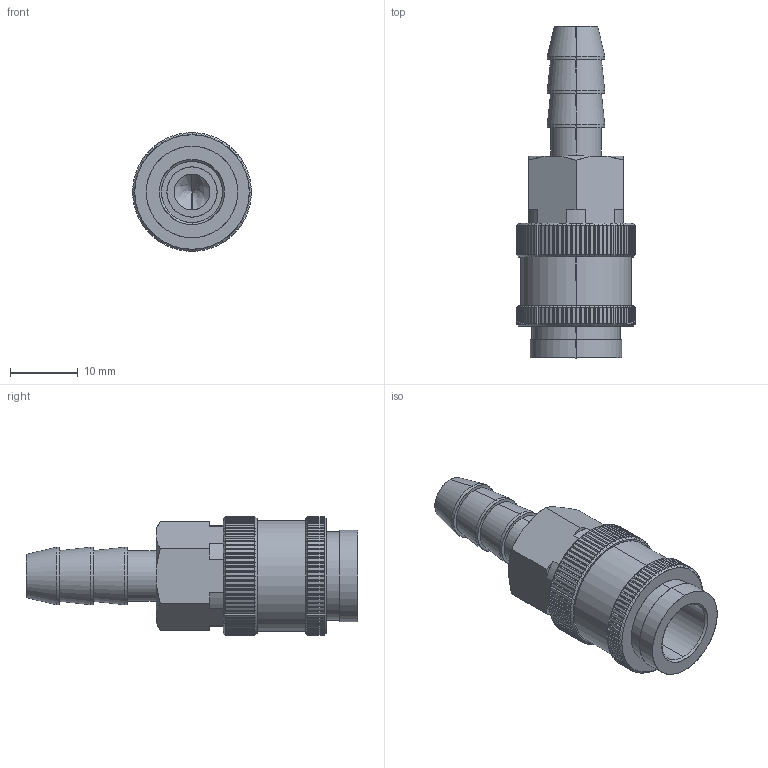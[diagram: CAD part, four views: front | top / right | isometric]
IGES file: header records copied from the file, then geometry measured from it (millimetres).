
Start section: SolidWorks IGES file using analytic representation for surfaces
Global section: file name: C:\Salvar\Planos Compartidos\Acoples Rapidos TZS\TZS-SH.IGS; native system: SolidWorks 2022; preprocessor: SolidWorks 2022; author: osval; date: 220426.125238; units: millimetre
Bounding box: 17.5 x 49 x 17.5 mm (x, y, z)
Surface area: 3879.4 mm2 (no closed solid volume)
Topology: 0 solids, 0 shells, 563 faces, 4157 edges, 4155 vertices
Faces by surface type: bspline 347, revolution 216
